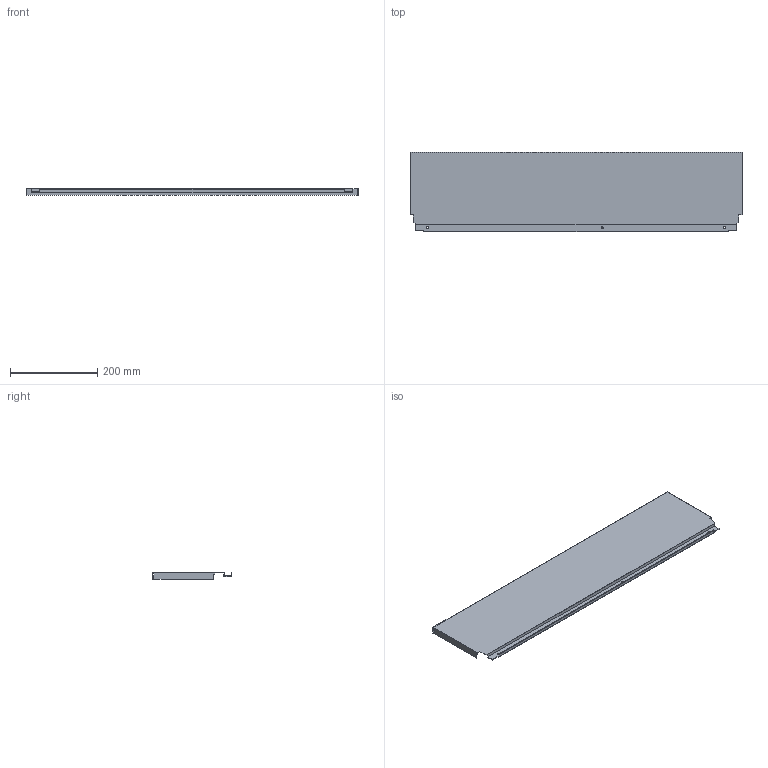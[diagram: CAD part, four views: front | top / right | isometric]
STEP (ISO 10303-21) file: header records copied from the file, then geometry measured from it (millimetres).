
FILE_DESCRIPTION (( 'STEP AP214' ), '1' );
FILE_NAME ('_DWD_XP Stahlrückwand_H182_KAB850_S19.step', '2010-07-08T12:58:10', ( 'grass' ), ( '' ), 'SwSTEP 2.0', 'SolidWorks 2010', '' );
FILE_SCHEMA (( 'AUTOMOTIVE_DESIGN' ));
Length unit declared in the file: millimetre
Products named in the file (1): _DWD_XP Stahlrückwand_H182_KAB850_S19
Bounding box: 761 x 182.49 x 16 mm (x, y, z)
Volume: 142870.8 mm3; surface area: 330529.7 mm2
Topology: 1 solids, 1 shells, 46 faces, 132 edges, 88 vertices
Faces by surface type: plane 40, cylinder 6
Entity records: 1534 total; most frequent: CARTESIAN_POINT 267, ORIENTED_EDGE 264, DIRECTION 238, EDGE_CURVE 132, VECTOR 120, LINE 120, VERTEX_POINT 88, AXIS2_PLACEMENT_3D 59
